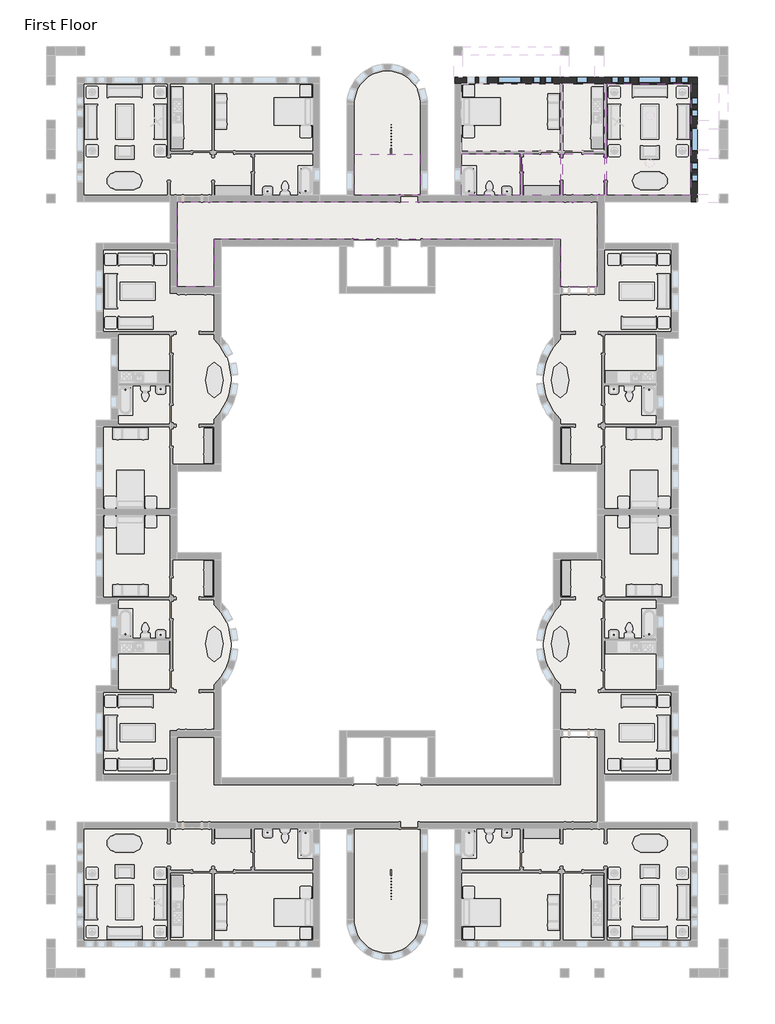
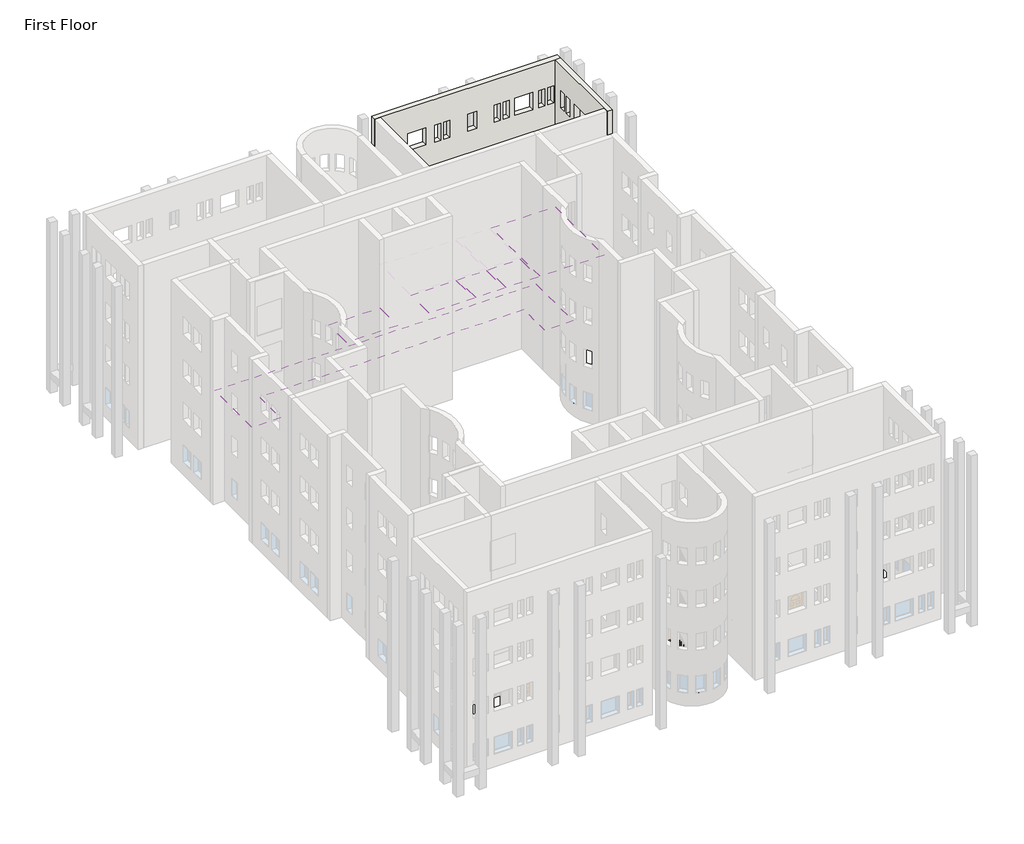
# One storey, part 16 of 21: 14 windows, 10 slabs, 6 coverings, 2 walls.
"""IFC4 building model written with IfcOpenShell, lengths in millimetres."""

from ifc_helpers import new_model, si_unit, point, frame, frame_2d, origin, place, context, project, spatial, polyline, circle_curve, trimmed, segment, composite_curve, outline, extrude, faceted_brep, transform, mapped, element, save
from components import window_da97879f, window_d61ef850, window_60baf983, window_6eb97611

model = new_model("IFC4")

# Units and contexts
model_context = context("Model", 3, world=origin())
ifc_project = project(units=[si_unit("LENGTHUNIT", "METRE", prefix="MILLI")], contexts=[model_context])

# Site, building, storey
site = spatial("IfcSite", under=ifc_project)
building = spatial("IfcBuilding", under=site)
storey = spatial("IfcBuildingStorey", under=building, Name="First Floor", Elevation=0.0)

# Coverings
placement = place(None, origin())
element("IfcCovering", 1, ObjectType="GWB on Mtl. Stud", at=placement, inside=storey, context=model_context, shape_type="SweptSolid", body=[
    extrude(outline(polyline([(-3709.9589563, 4526.4441867), (-3709.9589563, 10270.0191867), (622.3285437, 10270.0191867), (622.3285437, 4526.4441867), (-3709.9589563, 4526.4441867)])), frame((0.0, 0.0, 2590.8), z_axis=(0.0, 0.0, 1.0), x_axis=(1.0, 0.0, 0.0)), (0.0, 0.0, 1.0), 107.95),
])
element("IfcCovering", 2, ObjectType="GWB on Mtl. Stud", at=placement, inside=storey, context=model_context, shape_type="SweptSolid", body=[
    extrude(outline(polyline([(-3836.9589563, 4526.4441867), (-5995.9589563, 4526.4441867), (-5995.9589563, 6660.0441867), (-3836.9589563, 6660.0441867), (-3836.9589563, 4526.4441867)])), frame((0.0, 0.0, 2590.8), z_axis=(0.0, 0.0, 1.0), x_axis=(1.0, 0.0, 0.0)), (0.0, 0.0, 1.0), 107.95),
])
element("IfcCovering", 3, ObjectType="GWB on Mtl. Stud", at=placement, inside=storey, context=model_context, shape_type="SweptSolid", body=[
    extrude(outline(polyline([(-6122.9589563, 4526.4441867), (-8042.2464563, 4526.4441867), (-8042.2464563, 6660.0441867), (-6122.9589563, 6660.0441867), (-6122.9589563, 4526.4441867)])), frame((0.0, 0.0, 2590.8), z_axis=(0.0, 0.0, 1.0), x_axis=(1.0, 0.0, 0.0)), (0.0, 0.0, 1.0), 107.95),
])
element("IfcCovering", 4, ObjectType="GWB on Mtl. Stud", at=placement, inside=storey, context=model_context, shape_type="SweptSolid", body=[
    extrude(outline(polyline([(-8169.2464563, 6660.0441867), (-8169.2464563, 4526.4441867), (-11217.2464563, 4526.4441867), (-11217.2464563, 6660.0441867), (-8169.2464563, 6660.0441867)])), frame((0.0, 0.0, 2590.8), z_axis=(0.0, 0.0, 1.0), x_axis=(1.0, 0.0, 0.0)), (0.0, 0.0, 1.0), 107.95),
])
element("IfcCovering", 5, ObjectType="GWB on Mtl. Stud", at=placement, inside=storey, context=model_context, shape_type="SweptSolid", body=[
    extrude(outline(polyline([(-13333.3839563, 4526.4441867), (-16790.9589563, 4526.4441867), (-16790.9589563, 6636.2316867), (-13333.3839563, 6636.2316867), (-13333.3839563, 4526.4441867)])), frame((0.0, 0.0, 2438.4), z_axis=(0.0, 0.0, 1.0), x_axis=(1.0, 0.0, 0.0)), (0.0, 0.0, 1.0), 107.95),
])
element("IfcCovering", 6, ObjectType="GWB on Mtl. Stud", at=placement, inside=storey, context=model_context, shape_type="SweptSolid", body=[
    extrude(outline(polyline([(-6122.9589563, -197.9558133), (-6122.9589563, 2240.4441867), (-24001.3839563, 2240.4441867), (-24001.3839563, -197.9558133), (-25934.9589563, -197.9558133), (-25934.9589563, 4174.0191867), (-4189.3839563, 4174.0191867), (-4189.3839563, -197.9558133), (-6122.9589563, -197.9558133)])), frame((0.0, 0.0, 2438.4), z_axis=(0.0, 0.0, 1.0), x_axis=(1.0, 0.0, 0.0)), (0.0, 0.0, 1.0), 107.95),
])

# Slabs
element("IfcSlab", 7, ObjectType="LW Concrete on Metal Deck", at=placement, inside=storey, context=model_context, shape_type="SweptSolid", body=[
    extrude(outline(polyline([(787.4285437, 10435.1191867), (787.4285437, 4361.3441867), (-11382.3464563, 4361.3441867), (-11382.3464563, 10435.1191867), (787.4285437, 10435.1191867)])), frame((0.0, 0.0, -104.775), z_axis=(0.0, 0.0, 1.0), x_axis=(1.0, 0.0, 0.0)), (0.0, 0.0, 1.0), 104.775),
])
element("IfcSlab", 8, ObjectType="LW Concrete on Metal Deck", at=placement, inside=storey, context=model_context, shape_type="SweptSolid", body=[
    extrude(outline(composite_curve([segment(polyline([(-13320.6839563, 9227.0316867), (-13320.6839563, 4186.7191867), (-4189.3839563, 4186.7191867), (-4189.3839563, -197.9558133), (-6135.6589563, -197.9558133), (-6135.6589563, 2227.7441867), (-23988.6839563, 2227.7441867), (-23988.6839563, -197.9558133), (-25934.9589563, -197.9558133), (-25934.9589563, 4186.7191867), (-16803.6589563, 4186.7191867), (-16803.6589563, 9227.0316867)]), True, "CONTINUOUS"), segment(trimmed(circle_curve(frame_2d((-15062.1714563, 9227.0316867)), 1741.4875), [point((-16803.6589563, 9227.0316867))], [point((-13320.6839563, 9227.0316867))], False, "CARTESIAN"), True, "CONTINUOUS")], self_intersect=False)), frame((0.0, 0.0, -104.775), z_axis=(0.0, 0.0, 1.0), x_axis=(1.0, 0.0, 0.0)), (0.0, 0.0, 1.0), 104.775),
])
element("IfcSlab", 9, ObjectType="LW Concrete on Metal Deck", at=placement, inside=storey, context=model_context, shape_type="SweptSolid", body=[
    extrude(outline(composite_curve([segment(polyline([(-366.6839563, -7436.9558133), (-366.6839563, -11681.9308133), (-3849.6589563, -11681.9308133), (-3849.6589563, -9395.9308133), (-6135.6589563, -9395.9308133), (-6135.6589563, -7035.4203152)]), True, "CONTINUOUS"), segment(trimmed(circle_curve(frame_2d((-4122.4640713, -4987.4433133)), 2871.7875), [point((-6135.6589563, -7035.4203152))], [point((-6135.6589563, -2939.4663115))], False, "CARTESIAN"), True, "CONTINUOUS"), segment(polyline([(-6135.6589563, -2939.4663115), (-6135.6589563, -578.9558133), (-3849.6589563, -578.9558133), (-3849.6589563, 1707.0441867), (-366.6839563, 1707.0441867), (-366.6839563, -2537.9308133), (-1128.6839563, -2537.9308133), (-1128.6839563, -7436.9558133), (-366.6839563, -7436.9558133)]), True, "CONTINUOUS")], self_intersect=False)), frame((0.0, 0.0, -104.775), z_axis=(0.0, 0.0, 1.0), x_axis=(1.0, 0.0, 0.0)), (0.0, 0.0, 1.0), 104.775),
])
element("IfcSlab", 10, ObjectType="LW Concrete on Metal Deck", at=placement, inside=storey, context=model_context, shape_type="SweptSolid", body=[
    extrude(outline(polyline([(-30911.7714563, 10435.1191867), (-18741.9964563, 10435.1191867), (-18741.9964563, 4361.3441867), (-30911.7714563, 4361.3441867), (-30911.7714563, 10435.1191867)])), frame((0.0, 0.0, -104.775), z_axis=(0.0, 0.0, 1.0), x_axis=(1.0, 0.0, 0.0)), (0.0, 0.0, 1.0), 104.775),
])
element("IfcSlab", 11, ObjectType="LW Concrete on Metal Deck", at=placement, inside=storey, context=model_context, shape_type="SweptSolid", body=[
    extrude(outline(composite_curve([segment(polyline([(-29757.6589563, -7436.9558133), (-28995.6589563, -7436.9558133), (-28995.6589563, -2537.9308133), (-29757.6589563, -2537.9308133), (-29757.6589563, 1707.0441867), (-26274.6839563, 1707.0441867), (-26274.6839563, -578.9558133), (-23988.6839563, -578.9558133), (-23988.6839563, -2939.4663115)]), True, "CONTINUOUS"), segment(trimmed(circle_curve(frame_2d((-26001.8788413, -4987.4433133)), 2871.7875), [point((-23988.6839563, -2939.4663115))], [point((-23988.6839563, -7035.4203152))], False, "CARTESIAN"), True, "CONTINUOUS"), segment(polyline([(-23988.6839563, -7035.4203152), (-23988.6839563, -9395.9308133), (-26274.6839563, -9395.9308133), (-26274.6839563, -11681.9308133), (-29757.6589563, -11681.9308133), (-29757.6589563, -7436.9558133)]), True, "CONTINUOUS")], self_intersect=False)), frame((0.0, 0.0, -104.775), z_axis=(0.0, 0.0, 1.0), x_axis=(1.0, 0.0, 0.0)), (0.0, 0.0, 1.0), 104.775),
])
element("IfcSlab", 12, ObjectType="LW Concrete on Metal Deck", at=placement, inside=storey, context=model_context, shape_type="SweptSolid", body=[
    extrude(outline(polyline([(787.4285437, -34126.0058133), (-11382.3464563, -34126.0058133), (-11382.3464563, -28052.2308133), (787.4285437, -28052.2308133), (787.4285437, -34126.0058133)])), frame((0.0, 0.0, -104.775), z_axis=(0.0, 0.0, 1.0), x_axis=(1.0, 0.0, 0.0)), (0.0, 0.0, 1.0), 104.775),
])
element("IfcSlab", 13, ObjectType="LW Concrete on Metal Deck", at=placement, inside=storey, context=model_context, shape_type="SweptSolid", body=[
    extrude(outline(composite_curve([segment(trimmed(circle_curve(frame_2d((-15062.1714563, -32917.9183133)), 1741.4875), [point((-13320.6839563, -32917.9183133))], [point((-16803.6589563, -32917.9183133))], False, "CARTESIAN"), True, "CONTINUOUS"), segment(polyline([(-16803.6589563, -32917.9183133), (-16803.6589563, -27877.6058133), (-25934.9589563, -27877.6058133), (-25934.9589563, -23492.9308133), (-23988.6839563, -23492.9308133), (-23988.6839563, -25918.6308133), (-6135.6589563, -25918.6308133), (-6135.6589563, -23492.9308133), (-4189.3839563, -23492.9308133), (-4189.3839563, -27877.6058133), (-13320.6839563, -27877.6058133), (-13320.6839563, -32917.9183133)]), True, "CONTINUOUS")], self_intersect=False)), frame((0.0, 0.0, -104.775), z_axis=(0.0, 0.0, 1.0), x_axis=(1.0, 0.0, 0.0)), (0.0, 0.0, 1.0), 104.775),
])
element("IfcSlab", 14, ObjectType="LW Concrete on Metal Deck", at=placement, inside=storey, context=model_context, shape_type="SweptSolid", body=[
    extrude(outline(composite_curve([segment(polyline([(-366.6839563, -16253.9308133), (-1128.6839563, -16253.9308133), (-1128.6839563, -21152.9558133), (-366.6839563, -21152.9558133), (-366.6839563, -25397.9308133), (-3849.6589563, -25397.9308133), (-3849.6589563, -23111.9308133), (-6135.6589563, -23111.9308133), (-6135.6589563, -20751.4203152)]), True, "CONTINUOUS"), segment(trimmed(circle_curve(frame_2d((-4122.4640713, -18703.4433133)), 2871.7875), [point((-6135.6589563, -20751.4203152))], [point((-6135.6589563, -16655.4663115))], False, "CARTESIAN"), True, "CONTINUOUS"), segment(polyline([(-6135.6589563, -16655.4663115), (-6135.6589563, -14294.9558133), (-3849.6589563, -14294.9558133), (-3849.6589563, -12008.9558133), (-366.6839563, -12008.9558133), (-366.6839563, -16253.9308133)]), True, "CONTINUOUS")], self_intersect=False)), frame((0.0, 0.0, -104.775), z_axis=(0.0, 0.0, 1.0), x_axis=(1.0, 0.0, 0.0)), (0.0, 0.0, 1.0), 104.775),
])
element("IfcSlab", 15, ObjectType="LW Concrete on Metal Deck", at=placement, inside=storey, context=model_context, shape_type="SweptSolid", body=[
    extrude(outline(polyline([(-30911.7714563, -34126.0058133), (-30911.7714563, -28052.2308133), (-18741.9964563, -28052.2308133), (-18741.9964563, -34126.0058133), (-30911.7714563, -34126.0058133)])), frame((0.0, 0.0, -104.775), z_axis=(0.0, 0.0, 1.0), x_axis=(1.0, 0.0, 0.0)), (0.0, 0.0, 1.0), 104.775),
])
element("IfcSlab", 16, ObjectType="LW Concrete on Metal Deck", at=placement, inside=storey, context=model_context, shape_type="SweptSolid", body=[
    extrude(outline(composite_curve([segment(polyline([(-29757.6589563, -16253.9308133), (-29757.6589563, -12008.9558133), (-26274.6839563, -12008.9558133), (-26274.6839563, -14294.9558133), (-23988.6839563, -14294.9558133), (-23988.6839563, -16655.4663115)]), True, "CONTINUOUS"), segment(trimmed(circle_curve(frame_2d((-26001.8788413, -18703.4433133)), 2871.7875), [point((-23988.6839563, -16655.4663115))], [point((-23988.6839563, -20751.4203152))], False, "CARTESIAN"), True, "CONTINUOUS"), segment(polyline([(-23988.6839563, -20751.4203152), (-23988.6839563, -23111.9308133), (-26274.6839563, -23111.9308133), (-26274.6839563, -25397.9308133), (-29757.6589563, -25397.9308133), (-29757.6589563, -21152.9558133), (-28995.6589563, -21152.9558133), (-28995.6589563, -16253.9308133), (-29757.6589563, -16253.9308133)]), True, "CONTINUOUS")], self_intersect=False)), frame((0.0, 0.0, -104.775), z_axis=(0.0, 0.0, 1.0), x_axis=(1.0, 0.0, 0.0)), (0.0, 0.0, 1.0), 104.775),
])

# Walls
element("IfcWall", 17, ObjectType="Exterior - Brick on Mtl. Stud", at=placement, inside=storey, context=model_context, shape_type="Brep", body=[
    faceted_brep([(-11569.6714563, 10270.0191867, 0.0), (-11382.3464563, 10270.0191867, 0.0), (-11217.2464563, 10270.0191867, 0.0), (-6122.9589563, 10270.0191867, 0.0), (-5995.9589563, 10270.0191867, 0.0), (-3836.9589563, 10270.0191867, 0.0), (-3709.9589563, 10270.0191867, 0.0), (622.3285437, 10270.0191867, 0.0), (787.4285437, 10270.0191867, 0.0), (974.7535437, 10270.0191867, 0.0), (974.7535437, 10270.0191867, 13106.4), (622.3285437, 10270.0191867, 13106.4), (-11217.2464563, 10270.0191867, 13106.4), (-11569.6714563, 10270.0191867, 13106.4), (-5297.4589563, 10270.0191867, 2133.6), (-4687.8589563, 10270.0191867, 2133.6), (-4687.8589563, 10270.0191867, 914.4), (-5297.4589563, 10270.0191867, 914.4), (-9336.0589563, 10270.0191867, 2133.6), (-8116.8589563, 10270.0191867, 2133.6), (-8116.8589563, 10270.0191867, 914.4), (-9336.0589563, 10270.0191867, 914.4), (-2097.0589563, 10270.0191867, 2133.6), (-877.8589563, 10270.0191867, 2133.6), (-877.8589563, 10270.0191867, 914.4), (-2097.0589563, 10270.0191867, 914.4), (-10936.2589563, 10270.0191867, 2133.6), (-10529.8589563, 10270.0191867, 2133.6), (-10529.8589563, 10270.0191867, 914.4), (-10936.2589563, 10270.0191867, 914.4), (-10326.6589563, 10270.0191867, 2133.6), (-9920.2589563, 10270.0191867, 2133.6), (-9920.2589563, 10270.0191867, 914.4), (-10326.6589563, 10270.0191867, 914.4), (-6516.6589563, 10270.0191867, 2133.6), (-6516.6589563, 10270.0191867, 914.4), (-6923.0589563, 10270.0191867, 914.4), (-6923.0589563, 10270.0191867, 2133.6), (-7126.2589563, 10270.0191867, 2133.6), (-7126.2589563, 10270.0191867, 914.4), (-7532.6589563, 10270.0191867, 914.4), (-7532.6589563, 10270.0191867, 2133.6), (-3494.0589563, 10270.0191867, 2133.6), (-3087.6589563, 10270.0191867, 2133.6), (-3087.6589563, 10270.0191867, 914.4), (-3494.0589563, 10270.0191867, 914.4), (-2884.4589563, 10270.0191867, 2133.6), (-2478.0589563, 10270.0191867, 2133.6), (-2478.0589563, 10270.0191867, 914.4), (-2884.4589563, 10270.0191867, 914.4), (519.1410437, 10270.0191867, 2133.6), (519.1410437, 10270.0191867, 914.4), (112.7410437, 10270.0191867, 914.4), (112.7410437, 10270.0191867, 2133.6), (-90.4589563, 10270.0191867, 2133.6), (-90.4589563, 10270.0191867, 914.4), (-496.8589563, 10270.0191867, 914.4), (-496.8589563, 10270.0191867, 2133.6), (-5297.4589563, 10270.0191867, 11277.6), (-4687.8589563, 10270.0191867, 11277.6), (-4687.8589563, 10270.0191867, 10058.4), (-5297.4589563, 10270.0191867, 10058.4), (-9336.0589563, 10270.0191867, 11277.6), (-8116.8589563, 10270.0191867, 11277.6), (-8116.8589563, 10270.0191867, 10058.4), (-9336.0589563, 10270.0191867, 10058.4), (-2097.0589563, 10270.0191867, 11277.6), (-877.8589563, 10270.0191867, 11277.6), (-877.8589563, 10270.0191867, 10058.4), (-2097.0589563, 10270.0191867, 10058.4), (-10936.2589563, 10270.0191867, 11277.6), (-10529.8589563, 10270.0191867, 11277.6), (-10529.8589563, 10270.0191867, 10058.4), (-10936.2589563, 10270.0191867, 10058.4), (-10326.6589563, 10270.0191867, 11277.6), (-9920.2589563, 10270.0191867, 11277.6), (-9920.2589563, 10270.0191867, 10058.4), (-10326.6589563, 10270.0191867, 10058.4), (-6516.6589563, 10270.0191867, 11277.6), (-6516.6589563, 10270.0191867, 10058.4), (-6923.0589563, 10270.0191867, 10058.4), (-6923.0589563, 10270.0191867, 11277.6), (-7126.2589563, 10270.0191867, 11277.6), (-7126.2589563, 10270.0191867, 10058.4), (-7532.6589563, 10270.0191867, 10058.4), (-7532.6589563, 10270.0191867, 11277.6), (-3494.0589563, 10270.0191867, 11277.6), (-3087.6589563, 10270.0191867, 11277.6), (-3087.6589563, 10270.0191867, 10058.4), (-3494.0589563, 10270.0191867, 10058.4), (-2884.4589563, 10270.0191867, 11277.6), (-2478.0589563, 10270.0191867, 11277.6), (-2478.0589563, 10270.0191867, 10058.4), (-2884.4589563, 10270.0191867, 10058.4), (519.1410437, 10270.0191867, 11277.6), (519.1410437, 10270.0191867, 10058.4), (112.7410437, 10270.0191867, 10058.4), (112.7410437, 10270.0191867, 11277.6), (-90.4589563, 10270.0191867, 11277.6), (-90.4589563, 10270.0191867, 10058.4), (-496.8589563, 10270.0191867, 10058.4), (-496.8589563, 10270.0191867, 11277.6), (-5297.4589563, 10270.0191867, 5181.6), (-4687.8589563, 10270.0191867, 5181.6), (-4687.8589563, 10270.0191867, 3962.4), (-5297.4589563, 10270.0191867, 3962.4), (-9336.0589563, 10270.0191867, 5181.6), (-8116.8589563, 10270.0191867, 5181.6), (-8116.8589563, 10270.0191867, 3962.4), (-9336.0589563, 10270.0191867, 3962.4), (-2097.0589563, 10270.0191867, 5181.6), (-877.8589563, 10270.0191867, 5181.6), (-877.8589563, 10270.0191867, 3962.4), (-2097.0589563, 10270.0191867, 3962.4), (-10936.2589563, 10270.0191867, 5181.6), (-10529.8589563, 10270.0191867, 5181.6), (-10529.8589563, 10270.0191867, 3962.4), (-10936.2589563, 10270.0191867, 3962.4), (-10326.6589563, 10270.0191867, 5181.6), (-9920.2589563, 10270.0191867, 5181.6), (-9920.2589563, 10270.0191867, 3962.4), (-10326.6589563, 10270.0191867, 3962.4), (-6516.6589563, 10270.0191867, 5181.6), (-6516.6589563, 10270.0191867, 3962.4), (-6923.0589563, 10270.0191867, 3962.4), (-6923.0589563, 10270.0191867, 5181.6), (-7126.2589563, 10270.0191867, 5181.6), (-7126.2589563, 10270.0191867, 3962.4), (-7532.6589563, 10270.0191867, 3962.4), (-7532.6589563, 10270.0191867, 5181.6), (-3494.0589563, 10270.0191867, 5181.6), (-3087.6589563, 10270.0191867, 5181.6), (-3087.6589563, 10270.0191867, 3962.4), (-3494.0589563, 10270.0191867, 3962.4), (-2884.4589563, 10270.0191867, 5181.6), (-2478.0589563, 10270.0191867, 5181.6), (-2478.0589563, 10270.0191867, 3962.4), (-2884.4589563, 10270.0191867, 3962.4), (519.1410437, 10270.0191867, 5181.6), (519.1410437, 10270.0191867, 3962.4), (112.7410437, 10270.0191867, 3962.4), (112.7410437, 10270.0191867, 5181.6), (-90.4589563, 10270.0191867, 5181.6), (-90.4589563, 10270.0191867, 3962.4), (-496.8589563, 10270.0191867, 3962.4), (-496.8589563, 10270.0191867, 5181.6), (-5297.4589563, 10270.0191867, 8229.6), (-4687.8589563, 10270.0191867, 8229.6), (-4687.8589563, 10270.0191867, 7010.4), (-5297.4589563, 10270.0191867, 7010.4), (-9336.0589563, 10270.0191867, 8229.6), (-8116.8589563, 10270.0191867, 8229.6), (-8116.8589563, 10270.0191867, 7010.4), (-9336.0589563, 10270.0191867, 7010.4), (-2097.0589563, 10270.0191867, 8229.6), (-877.8589563, 10270.0191867, 8229.6), (-877.8589563, 10270.0191867, 7010.4), (-2097.0589563, 10270.0191867, 7010.4), (-10936.2589563, 10270.0191867, 8229.6), (-10529.8589563, 10270.0191867, 8229.6), (-10529.8589563, 10270.0191867, 7010.4), (-10936.2589563, 10270.0191867, 7010.4), (-10326.6589563, 10270.0191867, 8229.6), (-9920.2589563, 10270.0191867, 8229.6), (-9920.2589563, 10270.0191867, 7010.4), (-10326.6589563, 10270.0191867, 7010.4), (-6516.6589563, 10270.0191867, 8229.6), (-6516.6589563, 10270.0191867, 7010.4), (-6923.0589563, 10270.0191867, 7010.4), (-6923.0589563, 10270.0191867, 8229.6), (-7126.2589563, 10270.0191867, 8229.6), (-7126.2589563, 10270.0191867, 7010.4), (-7532.6589563, 10270.0191867, 7010.4), (-7532.6589563, 10270.0191867, 8229.6), (-3494.0589563, 10270.0191867, 8229.6), (-3087.6589563, 10270.0191867, 8229.6), (-3087.6589563, 10270.0191867, 7010.4), (-3494.0589563, 10270.0191867, 7010.4), (-2884.4589563, 10270.0191867, 8229.6), (-2478.0589563, 10270.0191867, 8229.6), (-2478.0589563, 10270.0191867, 7010.4), (-2884.4589563, 10270.0191867, 7010.4), (519.1410437, 10270.0191867, 8229.6), (519.1410437, 10270.0191867, 7010.4), (112.7410437, 10270.0191867, 7010.4), (112.7410437, 10270.0191867, 8229.6), (-90.4589563, 10270.0191867, 8229.6), (-90.4589563, 10270.0191867, 7010.4), (-496.8589563, 10270.0191867, 7010.4), (-496.8589563, 10270.0191867, 8229.6), (-11569.6714563, 10622.4441867, 0.0), (-11569.6714563, 10622.4441867, 13106.4), (974.7535437, 10622.4441867, 13106.4), (974.7535437, 10622.4441867, 0.0), (787.4285437, 10622.4441867, 0.0), (-11382.3464563, 10622.4441867, 0.0), (-5297.4589563, 10622.4441867, 2133.6), (-5297.4589563, 10622.4441867, 914.4), (-4687.8589563, 10622.4441867, 914.4), (-4687.8589563, 10622.4441867, 2133.6), (-9336.0589563, 10622.4441867, 2133.6), (-9336.0589563, 10622.4441867, 914.4), (-8116.8589563, 10622.4441867, 914.4), (-8116.8589563, 10622.4441867, 2133.6), (-2097.0589563, 10622.4441867, 2133.6), (-2097.0589563, 10622.4441867, 914.4), (-877.8589563, 10622.4441867, 914.4), (-877.8589563, 10622.4441867, 2133.6), (-10936.2589563, 10622.4441867, 2133.6), (-10936.2589563, 10622.4441867, 914.4), (-10529.8589563, 10622.4441867, 914.4), (-10529.8589563, 10622.4441867, 2133.6), (-10326.6589563, 10622.4441867, 2133.6), (-10326.6589563, 10622.4441867, 914.4), (-9920.2589563, 10622.4441867, 914.4), (-9920.2589563, 10622.4441867, 2133.6), (-6516.6589563, 10622.4441867, 2133.6), (-6923.0589563, 10622.4441867, 2133.6), (-6923.0589563, 10622.4441867, 914.4), (-6516.6589563, 10622.4441867, 914.4), (-7126.2589563, 10622.4441867, 2133.6), (-7532.6589563, 10622.4441867, 2133.6), (-7532.6589563, 10622.4441867, 914.4), (-7126.2589563, 10622.4441867, 914.4), (-3494.0589563, 10622.4441867, 2133.6), (-3494.0589563, 10622.4441867, 914.4), (-3087.6589563, 10622.4441867, 914.4), (-3087.6589563, 10622.4441867, 2133.6), (-2884.4589563, 10622.4441867, 2133.6), (-2884.4589563, 10622.4441867, 914.4), (-2478.0589563, 10622.4441867, 914.4), (-2478.0589563, 10622.4441867, 2133.6), (519.1410437, 10622.4441867, 2133.6), (112.7410437, 10622.4441867, 2133.6), (112.7410437, 10622.4441867, 914.4), (519.1410437, 10622.4441867, 914.4), (-90.4589563, 10622.4441867, 2133.6), (-496.8589563, 10622.4441867, 2133.6), (-496.8589563, 10622.4441867, 914.4), (-90.4589563, 10622.4441867, 914.4), (-5297.4589563, 10622.4441867, 11277.6), (-5297.4589563, 10622.4441867, 10058.4), (-4687.8589563, 10622.4441867, 10058.4), (-4687.8589563, 10622.4441867, 11277.6), (-9336.0589563, 10622.4441867, 11277.6), (-9336.0589563, 10622.4441867, 10058.4), (-8116.8589563, 10622.4441867, 10058.4), (-8116.8589563, 10622.4441867, 11277.6), (-2097.0589563, 10622.4441867, 11277.6), (-2097.0589563, 10622.4441867, 10058.4), (-877.8589563, 10622.4441867, 10058.4), (-877.8589563, 10622.4441867, 11277.6), (-10936.2589563, 10622.4441867, 11277.6), (-10936.2589563, 10622.4441867, 10058.4), (-10529.8589563, 10622.4441867, 10058.4), (-10529.8589563, 10622.4441867, 11277.6), (-10326.6589563, 10622.4441867, 11277.6), (-10326.6589563, 10622.4441867, 10058.4), (-9920.2589563, 10622.4441867, 10058.4), (-9920.2589563, 10622.4441867, 11277.6), (-6516.6589563, 10622.4441867, 11277.6), (-6923.0589563, 10622.4441867, 11277.6), (-6923.0589563, 10622.4441867, 10058.4), (-6516.6589563, 10622.4441867, 10058.4), (-7126.2589563, 10622.4441867, 11277.6), (-7532.6589563, 10622.4441867, 11277.6), (-7532.6589563, 10622.4441867, 10058.4), (-7126.2589563, 10622.4441867, 10058.4), (-3494.0589563, 10622.4441867, 11277.6), (-3494.0589563, 10622.4441867, 10058.4), (-3087.6589563, 10622.4441867, 10058.4), (-3087.6589563, 10622.4441867, 11277.6), (-2884.4589563, 10622.4441867, 11277.6), (-2884.4589563, 10622.4441867, 10058.4), (-2478.0589563, 10622.4441867, 10058.4), (-2478.0589563, 10622.4441867, 11277.6), (519.1410437, 10622.4441867, 11277.6), (112.7410437, 10622.4441867, 11277.6), (112.7410437, 10622.4441867, 10058.4), (519.1410437, 10622.4441867, 10058.4), (-90.4589563, 10622.4441867, 11277.6), (-496.8589563, 10622.4441867, 11277.6), (-496.8589563, 10622.4441867, 10058.4), (-90.4589563, 10622.4441867, 10058.4), (-5297.4589563, 10622.4441867, 5181.6), (-5297.4589563, 10622.4441867, 3962.4), (-4687.8589563, 10622.4441867, 3962.4), (-4687.8589563, 10622.4441867, 5181.6), (-9336.0589563, 10622.4441867, 5181.6), (-9336.0589563, 10622.4441867, 3962.4), (-8116.8589563, 10622.4441867, 3962.4), (-8116.8589563, 10622.4441867, 5181.6), (-2097.0589563, 10622.4441867, 5181.6), (-2097.0589563, 10622.4441867, 3962.4), (-877.8589563, 10622.4441867, 3962.4), (-877.8589563, 10622.4441867, 5181.6), (-10936.2589563, 10622.4441867, 5181.6), (-10936.2589563, 10622.4441867, 3962.4), (-10529.8589563, 10622.4441867, 3962.4), (-10529.8589563, 10622.4441867, 5181.6), (-10326.6589563, 10622.4441867, 5181.6), (-10326.6589563, 10622.4441867, 3962.4), (-9920.2589563, 10622.4441867, 3962.4), (-9920.2589563, 10622.4441867, 5181.6), (-6516.6589563, 10622.4441867, 5181.6), (-6923.0589563, 10622.4441867, 5181.6), (-6923.0589563, 10622.4441867, 3962.4), (-6516.6589563, 10622.4441867, 3962.4), (-7126.2589563, 10622.4441867, 5181.6), (-7532.6589563, 10622.4441867, 5181.6), (-7532.6589563, 10622.4441867, 3962.4), (-7126.2589563, 10622.4441867, 3962.4), (-3494.0589563, 10622.4441867, 5181.6), (-3494.0589563, 10622.4441867, 3962.4), (-3087.6589563, 10622.4441867, 3962.4), (-3087.6589563, 10622.4441867, 5181.6), (-2884.4589563, 10622.4441867, 5181.6), (-2884.4589563, 10622.4441867, 3962.4), (-2478.0589563, 10622.4441867, 3962.4), (-2478.0589563, 10622.4441867, 5181.6), (519.1410437, 10622.4441867, 5181.6), (112.7410437, 10622.4441867, 5181.6), (112.7410437, 10622.4441867, 3962.4), (519.1410437, 10622.4441867, 3962.4), (-90.4589563, 10622.4441867, 5181.6), (-496.8589563, 10622.4441867, 5181.6), (-496.8589563, 10622.4441867, 3962.4), (-90.4589563, 10622.4441867, 3962.4), (-5297.4589563, 10622.4441867, 8229.6), (-5297.4589563, 10622.4441867, 7010.4), (-4687.8589563, 10622.4441867, 7010.4), (-4687.8589563, 10622.4441867, 8229.6), (-9336.0589563, 10622.4441867, 8229.6), (-9336.0589563, 10622.4441867, 7010.4), (-8116.8589563, 10622.4441867, 7010.4), (-8116.8589563, 10622.4441867, 8229.6), (-2097.0589563, 10622.4441867, 8229.6), (-2097.0589563, 10622.4441867, 7010.4), (-877.8589563, 10622.4441867, 7010.4), (-877.8589563, 10622.4441867, 8229.6), (-10936.2589563, 10622.4441867, 8229.6), (-10936.2589563, 10622.4441867, 7010.4), (-10529.8589563, 10622.4441867, 7010.4), (-10529.8589563, 10622.4441867, 8229.6), (-10326.6589563, 10622.4441867, 8229.6), (-10326.6589563, 10622.4441867, 7010.4), (-9920.2589563, 10622.4441867, 7010.4), (-9920.2589563, 10622.4441867, 8229.6), (-6516.6589563, 10622.4441867, 8229.6), (-6923.0589563, 10622.4441867, 8229.6), (-6923.0589563, 10622.4441867, 7010.4), (-6516.6589563, 10622.4441867, 7010.4), (-7126.2589563, 10622.4441867, 8229.6), (-7532.6589563, 10622.4441867, 8229.6), (-7532.6589563, 10622.4441867, 7010.4), (-7126.2589563, 10622.4441867, 7010.4), (-3494.0589563, 10622.4441867, 8229.6), (-3494.0589563, 10622.4441867, 7010.4), (-3087.6589563, 10622.4441867, 7010.4), (-3087.6589563, 10622.4441867, 8229.6), (-2884.4589563, 10622.4441867, 8229.6), (-2884.4589563, 10622.4441867, 7010.4), (-2478.0589563, 10622.4441867, 7010.4), (-2478.0589563, 10622.4441867, 8229.6), (519.1410437, 10622.4441867, 8229.6), (112.7410437, 10622.4441867, 8229.6), (112.7410437, 10622.4441867, 7010.4), (519.1410437, 10622.4441867, 7010.4), (-90.4589563, 10622.4441867, 8229.6), (-496.8589563, 10622.4441867, 8229.6), (-496.8589563, 10622.4441867, 7010.4), (-90.4589563, 10622.4441867, 7010.4), (974.7535437, 10435.1191867, 0.0), (-11569.6714563, 10435.1191867, 0.0), (-11382.3464563, 10435.1191867, 0.0), (787.4285437, 10435.1191867, 0.0)], [[[0, 1, 2, 3, 4, 5, 6, 7, 8, 9, 10, 11, 12, 13], [14, 15, 16, 17], [18, 19, 20, 21], [22, 23, 24, 25], [26, 27, 28, 29], [30, 31, 32, 33], [34, 35, 36, 37], [38, 39, 40, 41], [42, 43, 44, 45], [46, 47, 48, 49], [50, 51, 52, 53], [54, 55, 56, 57], [58, 59, 60, 61], [62, 63, 64, 65], [66, 67, 68, 69], [70, 71, 72, 73], [74, 75, 76, 77], [78, 79, 80, 81], [82, 83, 84, 85], [86, 87, 88, 89], [90, 91, 92, 93], [94, 95, 96, 97], [98, 99, 100, 101], [102, 103, 104, 105], [106, 107, 108, 109], [110, 111, 112, 113], [114, 115, 116, 117], [118, 119, 120, 121], [122, 123, 124, 125], [126, 127, 128, 129], [130, 131, 132, 133], [134, 135, 136, 137], [138, 139, 140, 141], [142, 143, 144, 145], [146, 147, 148, 149], [150, 151, 152, 153], [154, 155, 156, 157], [158, 159, 160, 161], [162, 163, 164, 165], [166, 167, 168, 169], [170, 171, 172, 173], [174, 175, 176, 177], [178, 179, 180, 181], [182, 183, 184, 185], [186, 187, 188, 189]], [[190, 191, 192, 193, 194, 195], [196, 197, 198, 199], [200, 201, 202, 203], [204, 205, 206, 207], [208, 209, 210, 211], [212, 213, 214, 215], [216, 217, 218, 219], [220, 221, 222, 223], [224, 225, 226, 227], [228, 229, 230, 231], [232, 233, 234, 235], [236, 237, 238, 239], [240, 241, 242, 243], [244, 245, 246, 247], [248, 249, 250, 251], [252, 253, 254, 255], [256, 257, 258, 259], [260, 261, 262, 263], [264, 265, 266, 267], [268, 269, 270, 271], [272, 273, 274, 275], [276, 277, 278, 279], [280, 281, 282, 283], [284, 285, 286, 287], [288, 289, 290, 291], [292, 293, 294, 295], [296, 297, 298, 299], [300, 301, 302, 303], [304, 305, 306, 307], [308, 309, 310, 311], [312, 313, 314, 315], [316, 317, 318, 319], [320, 321, 322, 323], [324, 325, 326, 327], [328, 329, 330, 331], [332, 333, 334, 335], [336, 337, 338, 339], [340, 341, 342, 343], [344, 345, 346, 347], [348, 349, 350, 351], [352, 353, 354, 355], [356, 357, 358, 359], [360, 361, 362, 363], [364, 365, 366, 367], [368, 369, 370, 371]], [[13, 12, 11, 10, 192, 191]], [[10, 9, 372, 193, 192]], [[0, 13, 191, 190, 373]], [[1, 0, 373, 374]], [[373, 190, 195, 374]], [[9, 8, 375, 372]], [[195, 194, 375, 374]], [[194, 193, 372, 375]], [[8, 7, 6, 5, 4, 3, 2, 1, 374, 375]], [[197, 196, 14, 17]], [[198, 197, 17, 16]], [[199, 198, 16, 15]], [[196, 199, 15, 14]], [[201, 200, 18, 21]], [[202, 201, 21, 20]], [[203, 202, 20, 19]], [[200, 203, 19, 18]], [[205, 204, 22, 25]], [[206, 205, 25, 24]], [[207, 206, 24, 23]], [[204, 207, 23, 22]], [[209, 208, 26, 29]], [[210, 209, 29, 28]], [[211, 210, 28, 27]], [[208, 211, 27, 26]], [[213, 212, 30, 33]], [[214, 213, 33, 32]], [[215, 214, 32, 31]], [[212, 215, 31, 30]], [[35, 34, 216, 219]], [[36, 35, 219, 218]], [[37, 36, 218, 217]], [[34, 37, 217, 216]], [[39, 38, 220, 223]], [[40, 39, 223, 222]], [[41, 40, 222, 221]], [[38, 41, 221, 220]], [[225, 224, 42, 45]], [[226, 225, 45, 44]], [[227, 226, 44, 43]], [[224, 227, 43, 42]], [[229, 228, 46, 49]], [[230, 229, 49, 48]], [[231, 230, 48, 47]], [[228, 231, 47, 46]], [[51, 50, 232, 235]], [[52, 51, 235, 234]], [[53, 52, 234, 233]], [[50, 53, 233, 232]], [[55, 54, 236, 239]], [[56, 55, 239, 238]], [[57, 56, 238, 237]], [[54, 57, 237, 236]], [[241, 240, 58, 61]], [[242, 241, 61, 60]], [[243, 242, 60, 59]], [[240, 243, 59, 58]], [[245, 244, 62, 65]], [[246, 245, 65, 64]], [[247, 246, 64, 63]], [[244, 247, 63, 62]], [[249, 248, 66, 69]], [[250, 249, 69, 68]], [[251, 250, 68, 67]], [[248, 251, 67, 66]], [[253, 252, 70, 73]], [[254, 253, 73, 72]], [[255, 254, 72, 71]], [[252, 255, 71, 70]], [[257, 256, 74, 77]], [[258, 257, 77, 76]], [[259, 258, 76, 75]], [[256, 259, 75, 74]], [[79, 78, 260, 263]], [[80, 79, 263, 262]], [[81, 80, 262, 261]], [[78, 81, 261, 260]], [[83, 82, 264, 267]], [[84, 83, 267, 266]], [[85, 84, 266, 265]], [[82, 85, 265, 264]], [[269, 268, 86, 89]], [[270, 269, 89, 88]], [[271, 270, 88, 87]], [[268, 271, 87, 86]], [[273, 272, 90, 93]], [[274, 273, 93, 92]], [[275, 274, 92, 91]], [[272, 275, 91, 90]], [[95, 94, 276, 279]], [[96, 95, 279, 278]], [[97, 96, 278, 277]], [[94, 97, 277, 276]], [[99, 98, 280, 283]], [[100, 99, 283, 282]], [[101, 100, 282, 281]], [[98, 101, 281, 280]], [[285, 284, 102, 105]], [[286, 285, 105, 104]], [[287, 286, 104, 103]], [[284, 287, 103, 102]], [[289, 288, 106, 109]], [[290, 289, 109, 108]], [[291, 290, 108, 107]], [[288, 291, 107, 106]], [[293, 292, 110, 113]], [[294, 293, 113, 112]], [[295, 294, 112, 111]], [[292, 295, 111, 110]], [[297, 296, 114, 117]], [[298, 297, 117, 116]], [[299, 298, 116, 115]], [[296, 299, 115, 114]], [[301, 300, 118, 121]], [[302, 301, 121, 120]], [[303, 302, 120, 119]], [[300, 303, 119, 118]], [[123, 122, 304, 307]], [[124, 123, 307, 306]], [[125, 124, 306, 305]], [[122, 125, 305, 304]], [[127, 126, 308, 311]], [[128, 127, 311, 310]], [[129, 128, 310, 309]], [[126, 129, 309, 308]], [[313, 312, 130, 133]], [[314, 313, 133, 132]], [[315, 314, 132, 131]], [[312, 315, 131, 130]], [[317, 316, 134, 137]], [[318, 317, 137, 136]], [[319, 318, 136, 135]], [[316, 319, 135, 134]], [[139, 138, 320, 323]], [[140, 139, 323, 322]], [[141, 140, 322, 321]], [[138, 141, 321, 320]], [[143, 142, 324, 327]], [[144, 143, 327, 326]], [[145, 144, 326, 325]], [[142, 145, 325, 324]], [[329, 328, 146, 149]], [[330, 329, 149, 148]], [[331, 330, 148, 147]], [[328, 331, 147, 146]], [[333, 332, 150, 153]], [[334, 333, 153, 152]], [[335, 334, 152, 151]], [[332, 335, 151, 150]], [[337, 336, 154, 157]], [[338, 337, 157, 156]], [[339, 338, 156, 155]], [[336, 339, 155, 154]], [[341, 340, 158, 161]], [[342, 341, 161, 160]], [[343, 342, 160, 159]], [[340, 343, 159, 158]], [[345, 344, 162, 165]], [[346, 345, 165, 164]], [[347, 346, 164, 163]], [[344, 347, 163, 162]], [[167, 166, 348, 351]], [[168, 167, 351, 350]], [[169, 168, 350, 349]], [[166, 169, 349, 348]], [[171, 170, 352, 355]], [[172, 171, 355, 354]], [[173, 172, 354, 353]], [[170, 173, 353, 352]], [[357, 356, 174, 177]], [[358, 357, 177, 176]], [[359, 358, 176, 175]], [[356, 359, 175, 174]], [[361, 360, 178, 181]], [[362, 361, 181, 180]], [[363, 362, 180, 179]], [[360, 363, 179, 178]], [[183, 182, 364, 367]], [[184, 183, 367, 366]], [[185, 184, 366, 365]], [[182, 185, 365, 364]], [[187, 186, 368, 371]], [[188, 187, 371, 370]], [[189, 188, 370, 369]], [[186, 189, 369, 368]]]),
])
element("IfcWall", 18, ObjectType="Exterior - Brick on Mtl. Stud", at=placement, inside=storey, context=model_context, shape_type="Brep", body=[
    faceted_brep([(622.3285437, 10270.0191867, 0.0), (622.3285437, 4526.4441867, 0.0), (622.3285437, 4361.3441867, 0.0), (622.3285437, 4174.0191867, 0.0), (622.3285437, 4174.0191867, 13106.4), (622.3285437, 4526.4441867, 13106.4), (622.3285437, 10270.0191867, 13106.4), (622.3285437, 8007.8316867, 2133.6), (622.3285437, 6788.6316867, 2133.6), (622.3285437, 6788.6316867, 914.4), (622.3285437, 8007.8316867, 914.4), (622.3285437, 9582.6316867, 2133.6), (622.3285437, 9176.2316867, 2133.6), (622.3285437, 9176.2316867, 914.4), (622.3285437, 9582.6316867, 914.4), (622.3285437, 8973.0316867, 2133.6), (622.3285437, 8566.6316867, 2133.6), (622.3285437, 8566.6316867, 914.4), (622.3285437, 8973.0316867, 914.4), (622.3285437, 5213.8316867, 2133.6), (622.3285437, 5213.8316867, 914.4), (622.3285437, 5620.2316867, 914.4), (622.3285437, 5620.2316867, 2133.6), (622.3285437, 5823.4316867, 2133.6), (622.3285437, 5823.4316867, 914.4), (622.3285437, 6229.8316867, 914.4), (622.3285437, 6229.8316867, 2133.6), (622.3285437, 8007.8316867, 11277.6), (622.3285437, 6788.6316867, 11277.6), (622.3285437, 6788.6316867, 10058.4), (622.3285437, 8007.8316867, 10058.4), (622.3285437, 9582.6316867, 11277.6), (622.3285437, 9176.2316867, 11277.6), (622.3285437, 9176.2316867, 10058.4), (622.3285437, 9582.6316867, 10058.4), (622.3285437, 8973.0316867, 11277.6), (622.3285437, 8566.6316867, 11277.6), (622.3285437, 8566.6316867, 10058.4), (622.3285437, 8973.0316867, 10058.4), (622.3285437, 5213.8316867, 11277.6), (622.3285437, 5213.8316867, 10058.4), (622.3285437, 5620.2316867, 10058.4), (622.3285437, 5620.2316867, 11277.6), (622.3285437, 5823.4316867, 11277.6), (622.3285437, 5823.4316867, 10058.4), (622.3285437, 6229.8316867, 10058.4), (622.3285437, 6229.8316867, 11277.6), (622.3285437, 8007.8316867, 5181.6), (622.3285437, 6788.6316867, 5181.6), (622.3285437, 6788.6316867, 3962.4), (622.3285437, 8007.8316867, 3962.4), (622.3285437, 9582.6316867, 5181.6), (622.3285437, 9176.2316867, 5181.6), (622.3285437, 9176.2316867, 3962.4), (622.3285437, 9582.6316867, 3962.4), (622.3285437, 8973.0316867, 5181.6), (622.3285437, 8566.6316867, 5181.6), (622.3285437, 8566.6316867, 3962.4), (622.3285437, 8973.0316867, 3962.4), (622.3285437, 5213.8316867, 5181.6), (622.3285437, 5213.8316867, 3962.4), (622.3285437, 5620.2316867, 3962.4), (622.3285437, 5620.2316867, 5181.6), (622.3285437, 5823.4316867, 5181.6), (622.3285437, 5823.4316867, 3962.4), (622.3285437, 6229.8316867, 3962.4), (622.3285437, 6229.8316867, 5181.6), (622.3285437, 8007.8316867, 8229.6), (622.3285437, 6788.6316867, 8229.6), (622.3285437, 6788.6316867, 7010.4), (622.3285437, 8007.8316867, 7010.4), (622.3285437, 9582.6316867, 8229.6), (622.3285437, 9176.2316867, 8229.6), (622.3285437, 9176.2316867, 7010.4), (622.3285437, 9582.6316867, 7010.4), (622.3285437, 8973.0316867, 8229.6), (622.3285437, 8566.6316867, 8229.6), (622.3285437, 8566.6316867, 7010.4), (622.3285437, 8973.0316867, 7010.4), (622.3285437, 5213.8316867, 8229.6), (622.3285437, 5213.8316867, 7010.4), (622.3285437, 5620.2316867, 7010.4), (622.3285437, 5620.2316867, 8229.6), (622.3285437, 5823.4316867, 8229.6), (622.3285437, 5823.4316867, 7010.4), (622.3285437, 6229.8316867, 7010.4), (622.3285437, 6229.8316867, 8229.6), (974.7535437, 10270.0191867, 0.0), (974.7535437, 10270.0191867, 13106.4), (974.7535437, 4174.0191867, 13106.4), (974.7535437, 4174.0191867, 0.0), (974.7535437, 4361.3441867, 0.0), (974.7535437, 8007.8316867, 2133.6), (974.7535437, 8007.8316867, 914.4), (974.7535437, 6788.6316867, 914.4), (974.7535437, 6788.6316867, 2133.6), (974.7535437, 9582.6316867, 2133.6), (974.7535437, 9582.6316867, 914.4), (974.7535437, 9176.2316867, 914.4), (974.7535437, 9176.2316867, 2133.6), (974.7535437, 8973.0316867, 2133.6), (974.7535437, 8973.0316867, 914.4), (974.7535437, 8566.6316867, 914.4), (974.7535437, 8566.6316867, 2133.6), (974.7535437, 5213.8316867, 2133.6), (974.7535437, 5620.2316867, 2133.6), (974.7535437, 5620.2316867, 914.4), (974.7535437, 5213.8316867, 914.4), (974.7535437, 5823.4316867, 2133.6), (974.7535437, 6229.8316867, 2133.6), (974.7535437, 6229.8316867, 914.4), (974.7535437, 5823.4316867, 914.4), (974.7535437, 8007.8316867, 11277.6), (974.7535437, 8007.8316867, 10058.4), (974.7535437, 6788.6316867, 10058.4), (974.7535437, 6788.6316867, 11277.6), (974.7535437, 9582.6316867, 11277.6), (974.7535437, 9582.6316867, 10058.4), (974.7535437, 9176.2316867, 10058.4), (974.7535437, 9176.2316867, 11277.6), (974.7535437, 8973.0316867, 11277.6), (974.7535437, 8973.0316867, 10058.4), (974.7535437, 8566.6316867, 10058.4), (974.7535437, 8566.6316867, 11277.6), (974.7535437, 5213.8316867, 11277.6), (974.7535437, 5620.2316867, 11277.6), (974.7535437, 5620.2316867, 10058.4), (974.7535437, 5213.8316867, 10058.4), (974.7535437, 5823.4316867, 11277.6), (974.7535437, 6229.8316867, 11277.6), (974.7535437, 6229.8316867, 10058.4), (974.7535437, 5823.4316867, 10058.4), (974.7535437, 8007.8316867, 5181.6), (974.7535437, 8007.8316867, 3962.4), (974.7535437, 6788.6316867, 3962.4), (974.7535437, 6788.6316867, 5181.6), (974.7535437, 9582.6316867, 5181.6), (974.7535437, 9582.6316867, 3962.4), (974.7535437, 9176.2316867, 3962.4), (974.7535437, 9176.2316867, 5181.6), (974.7535437, 8973.0316867, 5181.6), (974.7535437, 8973.0316867, 3962.4), (974.7535437, 8566.6316867, 3962.4), (974.7535437, 8566.6316867, 5181.6), (974.7535437, 5213.8316867, 5181.6), (974.7535437, 5620.2316867, 5181.6), (974.7535437, 5620.2316867, 3962.4), (974.7535437, 5213.8316867, 3962.4), (974.7535437, 5823.4316867, 5181.6), (974.7535437, 6229.8316867, 5181.6), (974.7535437, 6229.8316867, 3962.4), (974.7535437, 5823.4316867, 3962.4), (974.7535437, 8007.8316867, 8229.6), (974.7535437, 8007.8316867, 7010.4), (974.7535437, 6788.6316867, 7010.4), (974.7535437, 6788.6316867, 8229.6), (974.7535437, 9582.6316867, 8229.6), (974.7535437, 9582.6316867, 7010.4), (974.7535437, 9176.2316867, 7010.4), (974.7535437, 9176.2316867, 8229.6), (974.7535437, 8973.0316867, 8229.6), (974.7535437, 8973.0316867, 7010.4), (974.7535437, 8566.6316867, 7010.4), (974.7535437, 8566.6316867, 8229.6), (974.7535437, 5213.8316867, 8229.6), (974.7535437, 5620.2316867, 8229.6), (974.7535437, 5620.2316867, 7010.4), (974.7535437, 5213.8316867, 7010.4), (974.7535437, 5823.4316867, 8229.6), (974.7535437, 6229.8316867, 8229.6), (974.7535437, 6229.8316867, 7010.4), (974.7535437, 5823.4316867, 7010.4), (787.4285437, 4174.0191867, 0.0), (787.4285437, 10270.0191867, 0.0), (787.4285437, 4361.3441867, 0.0)], [[[0, 1, 2, 3, 4, 5, 6], [7, 8, 9, 10], [11, 12, 13, 14], [15, 16, 17, 18], [19, 20, 21, 22], [23, 24, 25, 26], [27, 28, 29, 30], [31, 32, 33, 34], [35, 36, 37, 38], [39, 40, 41, 42], [43, 44, 45, 46], [47, 48, 49, 50], [51, 52, 53, 54], [55, 56, 57, 58], [59, 60, 61, 62], [63, 64, 65, 66], [67, 68, 69, 70], [71, 72, 73, 74], [75, 76, 77, 78], [79, 80, 81, 82], [83, 84, 85, 86]], [[87, 88, 89, 90, 91], [92, 93, 94, 95], [96, 97, 98, 99], [100, 101, 102, 103], [104, 105, 106, 107], [108, 109, 110, 111], [112, 113, 114, 115], [116, 117, 118, 119], [120, 121, 122, 123], [124, 125, 126, 127], [128, 129, 130, 131], [132, 133, 134, 135], [136, 137, 138, 139], [140, 141, 142, 143], [144, 145, 146, 147], [148, 149, 150, 151], [152, 153, 154, 155], [156, 157, 158, 159], [160, 161, 162, 163], [164, 165, 166, 167], [168, 169, 170, 171]], [[6, 5, 4, 89, 88]], [[4, 3, 172, 90, 89]], [[0, 6, 88, 87, 173]], [[173, 87, 91, 174]], [[3, 2, 174, 172]], [[174, 91, 90, 172]], [[2, 1, 0, 173, 174]], [[93, 92, 7, 10]], [[94, 93, 10, 9]], [[95, 94, 9, 8]], [[92, 95, 8, 7]], [[97, 96, 11, 14]], [[98, 97, 14, 13]], [[99, 98, 13, 12]], [[96, 99, 12, 11]], [[101, 100, 15, 18]], [[102, 101, 18, 17]], [[103, 102, 17, 16]], [[100, 103, 16, 15]], [[20, 19, 104, 107]], [[21, 20, 107, 106]], [[22, 21, 106, 105]], [[19, 22, 105, 104]], [[24, 23, 108, 111]], [[25, 24, 111, 110]], [[26, 25, 110, 109]], [[23, 26, 109, 108]], [[113, 112, 27, 30]], [[114, 113, 30, 29]], [[115, 114, 29, 28]], [[112, 115, 28, 27]], [[117, 116, 31, 34]], [[118, 117, 34, 33]], [[119, 118, 33, 32]], [[116, 119, 32, 31]], [[121, 120, 35, 38]], [[122, 121, 38, 37]], [[123, 122, 37, 36]], [[120, 123, 36, 35]], [[40, 39, 124, 127]], [[41, 40, 127, 126]], [[42, 41, 126, 125]], [[39, 42, 125, 124]], [[44, 43, 128, 131]], [[45, 44, 131, 130]], [[46, 45, 130, 129]], [[43, 46, 129, 128]], [[133, 132, 47, 50]], [[134, 133, 50, 49]], [[135, 134, 49, 48]], [[132, 135, 48, 47]], [[137, 136, 51, 54]], [[138, 137, 54, 53]], [[139, 138, 53, 52]], [[136, 139, 52, 51]], [[141, 140, 55, 58]], [[142, 141, 58, 57]], [[143, 142, 57, 56]], [[140, 143, 56, 55]], [[60, 59, 144, 147]], [[61, 60, 147, 146]], [[62, 61, 146, 145]], [[59, 62, 145, 144]], [[64, 63, 148, 151]], [[65, 64, 151, 150]], [[66, 65, 150, 149]], [[63, 66, 149, 148]], [[153, 152, 67, 70]], [[154, 153, 70, 69]], [[155, 154, 69, 68]], [[152, 155, 68, 67]], [[157, 156, 71, 74]], [[158, 157, 74, 73]], [[159, 158, 73, 72]], [[156, 159, 72, 71]], [[161, 160, 75, 78]], [[162, 161, 78, 77]], [[163, 162, 77, 76]], [[160, 163, 76, 75]], [[80, 79, 164, 167]], [[81, 80, 167, 166]], [[82, 81, 166, 165]], [[79, 82, 165, 164]], [[84, 83, 168, 171]], [[85, 84, 171, 170]], [[86, 85, 170, 169]], [[83, 86, 169, 168]]]),
])

# Windows
window_shape = window_da97879f(model_context)
element("IfcWindow", 19, ObjectType="Fixed : 16\" x 48\"", at=placement, inside=storey, context=model_context, shape_type="MappedRepresentation", body=[
    mapped(window_shape, transform((-3328.9589563, 10446.2316867, 0.0), x_axis=(-1.0, 0.0, 0.0), y_axis=(0.0, -1.0, 0.0), z_axis=(0.0, 0.0, 1.0))),
])
element("IfcWindow", 20, ObjectType="Fixed : 16\" x 48\"", at=placement, inside=storey, context=model_context, shape_type="MappedRepresentation", body=[
    mapped(window_shape, transform((-2719.3589563, 10446.2316867, 0.0), x_axis=(-1.0, 0.0, 0.0), y_axis=(0.0, -1.0, 0.0), z_axis=(0.0, 0.0, 1.0))),
])
element("IfcWindow", 21, ObjectType="Fixed : 16\" x 48\"", at=placement, inside=storey, context=model_context, shape_type="MappedRepresentation", body=[
    mapped(window_shape, transform((798.5410437, 9417.5316867, 0.0), x_axis=(0.0, 1.0, 0.0), y_axis=(-1.0, 0.0, 0.0), z_axis=(0.0, 0.0, 1.0))),
])
element("IfcWindow", 22, ObjectType="Fixed : 16\" x 48\"", at=placement, inside=storey, context=model_context, shape_type="MappedRepresentation", body=[
    mapped(window_shape, transform((798.5410437, 8807.9316867, 0.0), x_axis=(0.0, 1.0, 0.0), y_axis=(-1.0, 0.0, 0.0), z_axis=(0.0, 0.0, 1.0))),
])
window_2_shape = window_d61ef850(model_context)
element("IfcWindow", 23, ObjectType="Fixed : 16\" x 48\"", at=placement, inside=storey, context=model_context, shape_type="MappedRepresentation", body=[
    mapped(window_2_shape, transform((-6681.7589563, 10446.2316867, 0.0), x_axis=(1.0, 0.0, 0.0), y_axis=(0.0, 1.0, 0.0), z_axis=(0.0, 0.0, 1.0))),
])
element("IfcWindow", 24, ObjectType="Fixed : 16\" x 48\"", at=placement, inside=storey, context=model_context, shape_type="MappedRepresentation", body=[
    mapped(window_2_shape, transform((-7291.3589563, 10446.2316867, 0.0), x_axis=(1.0, 0.0, 0.0), y_axis=(0.0, 1.0, 0.0), z_axis=(0.0, 0.0, 1.0))),
])
element("IfcWindow", 25, ObjectType="Fixed : 16\" x 48\"", at=placement, inside=storey, context=model_context, shape_type="MappedRepresentation", body=[
    mapped(window_2_shape, transform((354.0410437, 10446.2316867, 0.0), x_axis=(1.0, 0.0, 0.0), y_axis=(0.0, 1.0, 0.0), z_axis=(0.0, 0.0, 1.0))),
])
element("IfcWindow", 26, ObjectType="Fixed : 16\" x 48\"", at=placement, inside=storey, context=model_context, shape_type="MappedRepresentation", body=[
    mapped(window_2_shape, transform((-255.5589563, 10446.2316867, 0.0), x_axis=(1.0, 0.0, 0.0), y_axis=(0.0, 1.0, 0.0), z_axis=(0.0, 0.0, 1.0))),
])
element("IfcWindow", 27, ObjectType="Fixed : 16\" x 48\"", at=placement, inside=storey, context=model_context, shape_type="MappedRepresentation", body=[
    mapped(window_2_shape, transform((798.5410437, 5378.9316867, 0.0), x_axis=(0.0, -1.0, 0.0), y_axis=(1.0, 0.0, 0.0), z_axis=(0.0, 0.0, 1.0))),
])
element("IfcWindow", 28, ObjectType="Fixed : 16\" x 48\"", at=placement, inside=storey, context=model_context, shape_type="MappedRepresentation", body=[
    mapped(window_2_shape, transform((798.5410437, 5988.5316867, 0.0), x_axis=(0.0, -1.0, 0.0), y_axis=(1.0, 0.0, 0.0), z_axis=(0.0, 0.0, 1.0))),
])
window_3_shape = window_60baf983(model_context)
element("IfcWindow", 29, ObjectType="Fixed : 24\" x 48\"", at=placement, inside=storey, context=model_context, shape_type="MappedRepresentation", body=[
    mapped(window_3_shape, transform((-5030.7589563, 10446.2316867, 0.0), x_axis=(-1.0, 0.0, 0.0), y_axis=(0.0, -1.0, 0.0), z_axis=(0.0, 0.0, 1.0))),
])
window_4_shape = window_6eb97611(model_context)
element("IfcWindow", 30, ObjectType="Fixed : 48\" x 48\"", at=placement, inside=storey, context=model_context, shape_type="MappedRepresentation", body=[
    mapped(window_4_shape, transform((-8764.5589563, 10446.2316867, 0.0), x_axis=(-1.0, 0.0, 0.0), y_axis=(0.0, -1.0, 0.0), z_axis=(0.0, 0.0, 1.0))),
])
element("IfcWindow", 31, ObjectType="Fixed : 48\" x 48\"", at=placement, inside=storey, context=model_context, shape_type="MappedRepresentation", body=[
    mapped(window_4_shape, transform((-1525.5589563, 10446.2316867, 0.0), x_axis=(-1.0, 0.0, 0.0), y_axis=(0.0, -1.0, 0.0), z_axis=(0.0, 0.0, 1.0))),
])
element("IfcWindow", 32, ObjectType="Fixed : 48\" x 48\"", at=placement, inside=storey, context=model_context, shape_type="MappedRepresentation", body=[
    mapped(window_4_shape, transform((798.5410437, 7436.3316867, 0.0), x_axis=(0.0, 1.0, 0.0), y_axis=(-1.0, 0.0, 0.0), z_axis=(0.0, 0.0, 1.0))),
])

save(model, "model.ifc")
